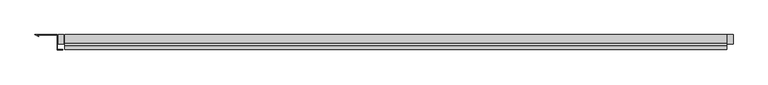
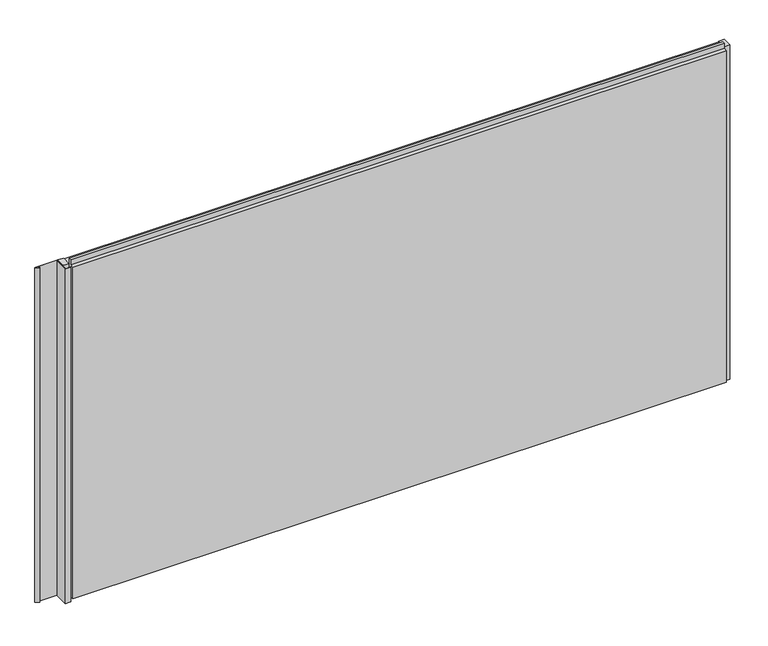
"""IFC4 building model written with IfcOpenShell, lengths in millimetres: plate geometry, Trimo_Qbiss Screen_Normal Panel-HORIZONTAL : HR - FB-F."""

from ifc_helpers import new_model, si_unit, frame, origin, place, context, project, spatial, polyline, outline, extrude, source, transform, mapped, element, save


def plate_b69234bf(model_context):
    return source(origin(), model_context, "Body", "SweptSolid", [
        extrude(outline(polyline([(-1119.0, 100.0), (-1119.0, 50.0), (-1101.5, 50.0), (-1101.5, 49.2), (-1119.8, 49.2), (-1119.8, 99.1967741), (-1191.008772, 99.1967741), (-1181.4756443, 93.6928203), (-1181.8756443, 93.0), (-1194.0, 100.0), (-1119.0, 100.0)])), frame((0.0, 0.0, -1.0), z_axis=(0.0, 0.0, 1.0), x_axis=(1.0, 0.0, 0.0)), (0.0, 0.0, 1.0), 1200.0),
        extrude(outline(polyline([(-1097.0, 67.8978162), (-1116.0, 67.8978162), (-1116.0, 100.0), (-1097.0, 100.0), (-1097.0, 67.8978162)])), frame((0.0, 0.0, -1.0), z_axis=(0.0, 0.0, 1.0), x_axis=(1.0, 0.0, 0.0)), (0.0, 0.0, 1.0), 1200.0),
        extrude(outline(polyline([(1144.5, 67.8978162), (1125.5, 67.8978162), (1125.5, 100.0), (1144.5, 100.0), (1144.5, 67.8978162)])), frame((0.0, 0.0, -1.0), z_axis=(0.0, 0.0, 1.0), x_axis=(1.0, 0.0, 0.0)), (0.0, 0.0, 1.0), 1200.0),
        extrude(outline(polyline([(71.0, 1196.0), (100.0, 1196.0), (100.0, 0.0), (72.0, 0.0), (72.0, 15.5), (62.0, 15.5), (62.0, 7.0), (50.0, 7.0), (50.0, 1196.0), (63.0, 1196.0), (63.0, 1214.5), (71.0, 1214.5), (71.0, 1196.0)])), frame((-1094.0, 0.0, 0.0), z_axis=(1.0, 0.0, 0.0), x_axis=(0.0, 1.0, 0.0)), (0.0, 0.0, 1.0), 2216.5),
    ])


if __name__ == "__main__":
    model = new_model("IFC4")
    model_context = context("Model", 3, world=origin())
    ifc_project = project(units=[si_unit("LENGTHUNIT", "METRE", prefix="MILLI")], contexts=[model_context])
    site = spatial("IfcSite", under=ifc_project)
    building = spatial("IfcBuilding", under=site)
    placement = place(None, origin())
    plate_shape = plate_b69234bf(model_context)
    element("IfcPlate", 1, ObjectType="Trimo_Qbiss Screen_Normal Panel-HORIZONTAL : HR - FB-F", at=placement, inside=building, context=model_context, shape_type="MappedRepresentation", body=[
        mapped(plate_shape, transform((0.0, 0.0, 0.0), x_axis=(1.0, 0.0, 0.0), y_axis=(0.0, 1.0, 0.0), z_axis=(0.0, 0.0, 1.0))),
    ])
    save(model, "model.ifc")
